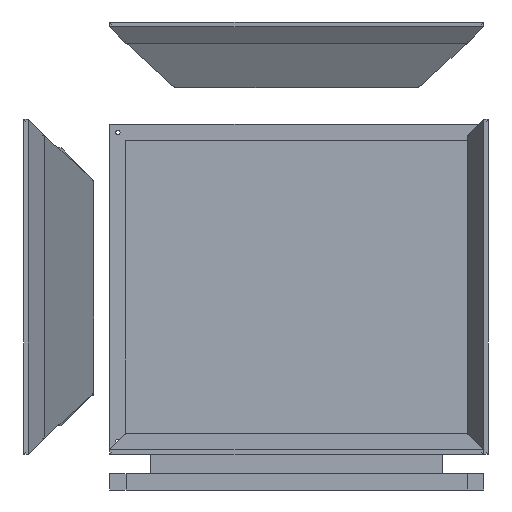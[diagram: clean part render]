
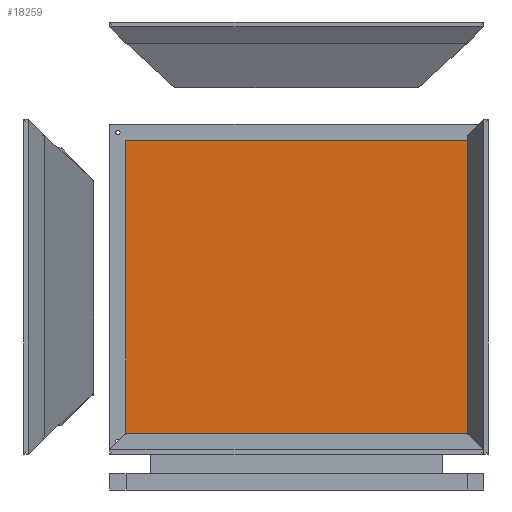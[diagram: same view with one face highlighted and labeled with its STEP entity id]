
A CAD part, left-side view. The second image highlights one B-rep face of the part: STEP entity #18259.
In plain terms, the highlighted planar face has unit normal (-1, 0, 0).
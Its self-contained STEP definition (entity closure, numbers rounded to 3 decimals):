
#18259 = ADVANCED_FACE('',(#18260),#18274,.F.);
#18260 = FACE_BOUND('',#18261,.F.);
#18261 = EDGE_LOOP('',(#18262,#18297,#18325,#18353));
#18262 = ORIENTED_EDGE('',*,*,#18263,.F.);
#18263 = EDGE_CURVE('',#18264,#18266,#18268,.T.);
#18264 = VERTEX_POINT('',#18265);
#18265 = CARTESIAN_POINT('',(150.,-210.,-180.));
#18266 = VERTEX_POINT('',#18267);
#18267 = CARTESIAN_POINT('',(150.,-210.,180.));
#18268 = SURFACE_CURVE('',#18269,(#18273,#18285),.PCURVE_S1.);
#18269 = LINE('',#18270,#18271);
#18270 = CARTESIAN_POINT('',(150.,-210.,-180.));
#18271 = VECTOR('',#18272,1.);
#18272 = DIRECTION('',(0.,0.,1.));
#18273 = PCURVE('',#18274,#18279);
#18274 = PLANE('',#18275);
#18275 = AXIS2_PLACEMENT_3D('',#18276,#18277,#18278);
#18276 = CARTESIAN_POINT('',(150.,-210.,-180.));
#18277 = DIRECTION('',(1.,0.,0.));
#18278 = DIRECTION('',(0.,0.,1.));
#18279 = DEFINITIONAL_REPRESENTATION('',(#18280),#18284);
#18280 = LINE('',#18281,#18282);
#18281 = CARTESIAN_POINT('',(0.,0.));
#18282 = VECTOR('',#18283,1.);
#18283 = DIRECTION('',(1.,0.));
#18284 = ( GEOMETRIC_REPRESENTATION_CONTEXT(2) 
PARAMETRIC_REPRESENTATION_CONTEXT() REPRESENTATION_CONTEXT('2D SPACE',''
  ) );
#18285 = PCURVE('',#18286,#18291);
#18286 = PLANE('',#18287);
#18287 = AXIS2_PLACEMENT_3D('',#18288,#18289,#18290);
#18288 = CARTESIAN_POINT('',(150.,-210.,-180.));
#18289 = DIRECTION('',(0.,1.,0.));
#18290 = DIRECTION('',(0.,0.,1.));
#18291 = DEFINITIONAL_REPRESENTATION('',(#18292),#18296);
#18292 = LINE('',#18293,#18294);
#18293 = CARTESIAN_POINT('',(0.,0.));
#18294 = VECTOR('',#18295,1.);
#18295 = DIRECTION('',(1.,0.));
#18296 = ( GEOMETRIC_REPRESENTATION_CONTEXT(2) 
PARAMETRIC_REPRESENTATION_CONTEXT() REPRESENTATION_CONTEXT('2D SPACE',''
  ) );
#18297 = ORIENTED_EDGE('',*,*,#18298,.T.);
#18298 = EDGE_CURVE('',#18264,#18299,#18301,.T.);
#18299 = VERTEX_POINT('',#18300);
#18300 = CARTESIAN_POINT('',(150.,210.,-180.));
#18301 = SURFACE_CURVE('',#18302,(#18306,#18313),.PCURVE_S1.);
#18302 = LINE('',#18303,#18304);
#18303 = CARTESIAN_POINT('',(150.,-210.,-180.));
#18304 = VECTOR('',#18305,1.);
#18305 = DIRECTION('',(0.,1.,0.));
#18306 = PCURVE('',#18274,#18307);
#18307 = DEFINITIONAL_REPRESENTATION('',(#18308),#18312);
#18308 = LINE('',#18309,#18310);
#18309 = CARTESIAN_POINT('',(0.,0.));
#18310 = VECTOR('',#18311,1.);
#18311 = DIRECTION('',(0.,-1.));
#18312 = ( GEOMETRIC_REPRESENTATION_CONTEXT(2) 
PARAMETRIC_REPRESENTATION_CONTEXT() REPRESENTATION_CONTEXT('2D SPACE',''
  ) );
#18313 = PCURVE('',#18314,#18319);
#18314 = PLANE('',#18315);
#18315 = AXIS2_PLACEMENT_3D('',#18316,#18317,#18318);
#18316 = CARTESIAN_POINT('',(150.,-210.,-180.));
#18317 = DIRECTION('',(0.,0.,1.));
#18318 = DIRECTION('',(1.,0.,0.));
#18319 = DEFINITIONAL_REPRESENTATION('',(#18320),#18324);
#18320 = LINE('',#18321,#18322);
#18321 = CARTESIAN_POINT('',(0.,0.));
#18322 = VECTOR('',#18323,1.);
#18323 = DIRECTION('',(0.,1.));
#18324 = ( GEOMETRIC_REPRESENTATION_CONTEXT(2) 
PARAMETRIC_REPRESENTATION_CONTEXT() REPRESENTATION_CONTEXT('2D SPACE',''
  ) );
#18325 = ORIENTED_EDGE('',*,*,#18326,.T.);
#18326 = EDGE_CURVE('',#18299,#18327,#18329,.T.);
#18327 = VERTEX_POINT('',#18328);
#18328 = CARTESIAN_POINT('',(150.,210.,180.));
#18329 = SURFACE_CURVE('',#18330,(#18334,#18341),.PCURVE_S1.);
#18330 = LINE('',#18331,#18332);
#18331 = CARTESIAN_POINT('',(150.,210.,-180.));
#18332 = VECTOR('',#18333,1.);
#18333 = DIRECTION('',(0.,0.,1.));
#18334 = PCURVE('',#18274,#18335);
#18335 = DEFINITIONAL_REPRESENTATION('',(#18336),#18340);
#18336 = LINE('',#18337,#18338);
#18337 = CARTESIAN_POINT('',(0.,-420.));
#18338 = VECTOR('',#18339,1.);
#18339 = DIRECTION('',(1.,0.));
#18340 = ( GEOMETRIC_REPRESENTATION_CONTEXT(2) 
PARAMETRIC_REPRESENTATION_CONTEXT() REPRESENTATION_CONTEXT('2D SPACE',''
  ) );
#18341 = PCURVE('',#18342,#18347);
#18342 = PLANE('',#18343);
#18343 = AXIS2_PLACEMENT_3D('',#18344,#18345,#18346);
#18344 = CARTESIAN_POINT('',(150.,210.,-180.));
#18345 = DIRECTION('',(0.,1.,0.));
#18346 = DIRECTION('',(0.,0.,1.));
#18347 = DEFINITIONAL_REPRESENTATION('',(#18348),#18352);
#18348 = LINE('',#18349,#18350);
#18349 = CARTESIAN_POINT('',(0.,0.));
#18350 = VECTOR('',#18351,1.);
#18351 = DIRECTION('',(1.,0.));
#18352 = ( GEOMETRIC_REPRESENTATION_CONTEXT(2) 
PARAMETRIC_REPRESENTATION_CONTEXT() REPRESENTATION_CONTEXT('2D SPACE',''
  ) );
#18353 = ORIENTED_EDGE('',*,*,#18354,.F.);
#18354 = EDGE_CURVE('',#18266,#18327,#18355,.T.);
#18355 = SURFACE_CURVE('',#18356,(#18360,#18367),.PCURVE_S1.);
#18356 = LINE('',#18357,#18358);
#18357 = CARTESIAN_POINT('',(150.,-210.,180.));
#18358 = VECTOR('',#18359,1.);
#18359 = DIRECTION('',(0.,1.,0.));
#18360 = PCURVE('',#18274,#18361);
#18361 = DEFINITIONAL_REPRESENTATION('',(#18362),#18366);
#18362 = LINE('',#18363,#18364);
#18363 = CARTESIAN_POINT('',(360.,0.));
#18364 = VECTOR('',#18365,1.);
#18365 = DIRECTION('',(0.,-1.));
#18366 = ( GEOMETRIC_REPRESENTATION_CONTEXT(2) 
PARAMETRIC_REPRESENTATION_CONTEXT() REPRESENTATION_CONTEXT('2D SPACE',''
  ) );
#18367 = PCURVE('',#18368,#18373);
#18368 = PLANE('',#18369);
#18369 = AXIS2_PLACEMENT_3D('',#18370,#18371,#18372);
#18370 = CARTESIAN_POINT('',(150.,-210.,180.));
#18371 = DIRECTION('',(0.,0.,1.));
#18372 = DIRECTION('',(1.,0.,0.));
#18373 = DEFINITIONAL_REPRESENTATION('',(#18374),#18378);
#18374 = LINE('',#18375,#18376);
#18375 = CARTESIAN_POINT('',(0.,0.));
#18376 = VECTOR('',#18377,1.);
#18377 = DIRECTION('',(0.,1.));
#18378 = ( GEOMETRIC_REPRESENTATION_CONTEXT(2) 
PARAMETRIC_REPRESENTATION_CONTEXT() REPRESENTATION_CONTEXT('2D SPACE',''
  ) );
